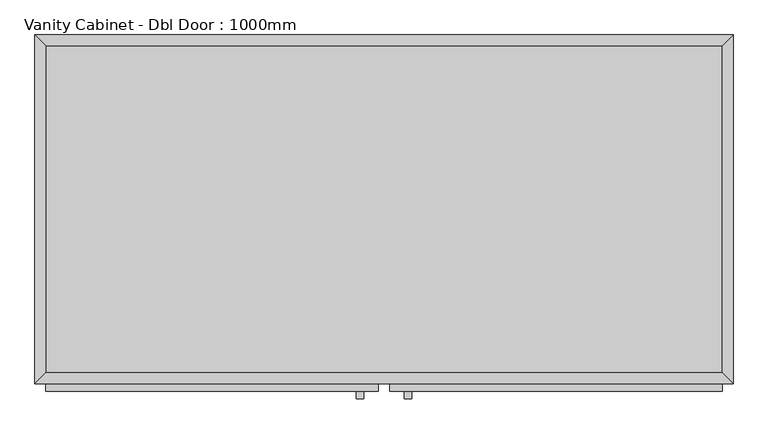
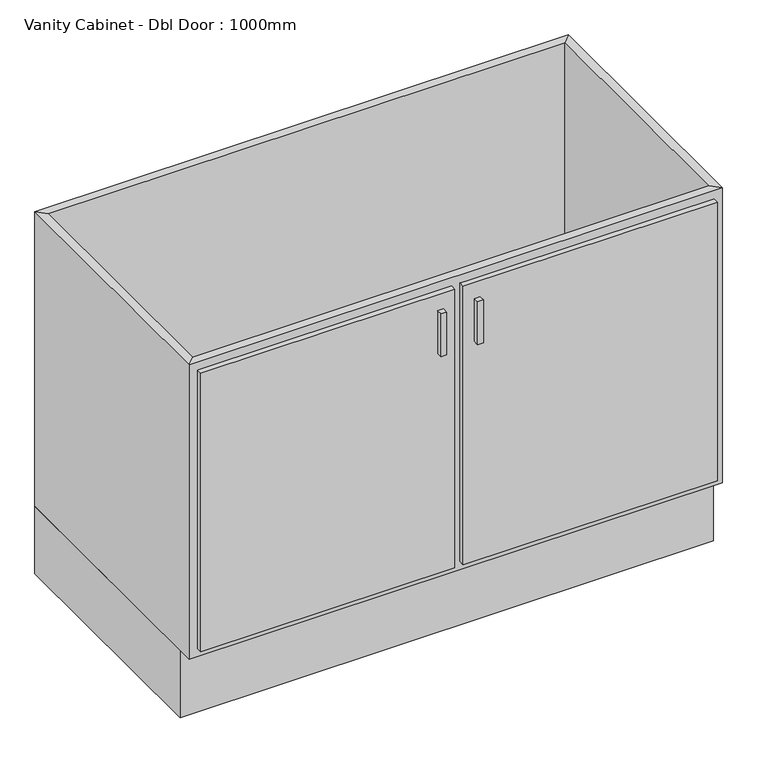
"""IFC4 building model written with IfcOpenShell, lengths in millimetres: furniture geometry, Vanity Cabinet - Dbl Door : 1000mm."""

import ifcopenshell
import ifcopenshell.guid

model = None  # the IFC model being written
_history = None  # IfcOwnerHistory: only IFC2X3 demands one
_inside = {}  # id of a spatial element -> (the spatial element, [elements in it])
_under = {}  # id of a project, library or spatial element -> (it, [spatial elements below it])
_declared = {}  # id of a project -> (the project, [libraries it declares])
_typed = {}  # id of a type object -> (the type object, [elements of that type])
_made_of = {}  # id of a material, layer set ... -> (it, [elements and type objects made of it])


def new_model(schema):
    """Start an empty IFC model of exactly this schema.

    Asked for "IFC4X3", IfcOpenShell would pick the latest addendum, in which some entities
    have other attributes; the version numbers below select the first issue.
    IFC2X3 requires an IfcOwnerHistory on every rooted entity: one is made here for all.
    """
    global model, _history
    if schema == "IFC4X3":
        model = ifcopenshell.file(schema_version=(4, 3, 0, 0))
    else:
        model = ifcopenshell.file(schema=schema)
    _inside.clear()
    _under.clear()
    _declared.clear()
    _typed.clear()
    _made_of.clear()
    _history = None
    if model.schema == "IFC2X3":
        org = make("IfcOrganization", Name="unknown")
        user = make(
            "IfcPersonAndOrganization",
            ThePerson=make("IfcPerson", FamilyName="unknown"),
            TheOrganization=org,
        )
        app = make(
            "IfcApplication",
            ApplicationDeveloper=org,
            Version="unknown",
            ApplicationFullName="unknown",
            ApplicationIdentifier="unknown",
        )
        _history = make(
            "IfcOwnerHistory",
            OwningUser=user,
            OwningApplication=app,
            ChangeAction="ADDED",
            CreationDate=0,
        )
    return model


def make(cls, **values):
    """One entity of the class cls with the attributes given. An attribute that is None is left unset."""
    return model.create_entity(
        cls, **{name: value for name, value in values.items() if value is not None}
    )


def rooted(cls, **values):
    """An entity with a GlobalId (a new one), such as an element, a storey or a relation."""
    return make(cls, GlobalId=ifcopenshell.guid.new(), OwnerHistory=_history, **values)


def si_unit(unit_type, name, prefix=None):
    """IfcSIUnit, for example si_unit("LENGTHUNIT", "METRE", prefix="MILLI")."""
    return make("IfcSIUnit", UnitType=unit_type, Prefix=prefix, Name=name)


def assignment(units):
    """IfcUnitAssignment: the units of a project."""
    return None if units is None else make("IfcUnitAssignment", Units=units)


def point(xyz):
    """IfcCartesianPoint."""
    return None if xyz is None else make("IfcCartesianPoint", Coordinates=xyz)


def direction(xyz):
    """IfcDirection."""
    return None if xyz is None else make("IfcDirection", DirectionRatios=xyz)


def frame(location, z_axis=None, x_axis=None):
    """IfcAxis2Placement3D, a coordinate frame: its origin and axes. An axis left out is left unset."""
    return make(
        "IfcAxis2Placement3D",
        Location=point(location),
        Axis=direction(z_axis),
        RefDirection=direction(x_axis),
    )


def origin():
    """The frame at (0, 0, 0) with its axes left unset."""
    return frame((0.0, 0.0, 0.0))


def origin_with_axes():
    """The frame at (0, 0, 0) with the z axis (0, 0, 1) and the x axis (1, 0, 0) written out."""
    return frame((0.0, 0.0, 0.0), z_axis=(0.0, 0.0, 1.0), x_axis=(1.0, 0.0, 0.0))


def place(relative_to, where):
    """IfcLocalPlacement: puts the frame where relative to a parent placement (None: the world)."""
    return make(
        "IfcLocalPlacement", PlacementRelTo=relative_to, RelativePlacement=where
    )


def context(
    kind, dimensions, precision=None, world=None, true_north=None, identifier=None
):
    """IfcGeometricRepresentationContext, for example the 3D "Model" context."""
    return make(
        "IfcGeometricRepresentationContext",
        ContextIdentifier=identifier,
        ContextType=kind,
        CoordinateSpaceDimension=dimensions,
        Precision=precision,
        WorldCoordinateSystem=world,
        TrueNorth=true_north,
    )


def project(units=None, contexts=None):
    """IfcProject with its units and contexts."""
    return rooted(
        "IfcProject",
        Name="project",
        RepresentationContexts=contexts,
        UnitsInContext=assignment(units),
    )


def spatial(cls, under=None, at=None, **own):
    """A site, building, storey or space (cls), placed at a placement, below another one or the project."""
    s = rooted(cls, ObjectPlacement=at, **own)
    if under is not None:
        _under.setdefault(under.id(), (under, []))[1].append(s)
    return s


def polyline(points):
    """IfcPolyline through the points."""
    return make("IfcPolyline", Points=[point(p) for p in points])


def outline(outer, holes=None, kind="AREA"):
    """IfcArbitraryClosedProfileDef: a profile drawn as a closed curve; with holes, ...WithVoids."""
    if holes is None:
        return make("IfcArbitraryClosedProfileDef", ProfileType=kind, OuterCurve=outer)
    return make(
        "IfcArbitraryProfileDefWithVoids",
        ProfileType=kind,
        OuterCurve=outer,
        InnerCurves=holes,
    )


def extrude(swept, where, along, depth):
    """IfcExtrudedAreaSolid: the profile swept, set in the frame where, extruded along a direction by depth."""
    return make(
        "IfcExtrudedAreaSolid",
        SweptArea=swept,
        Position=where,
        ExtrudedDirection=direction(along),
        Depth=depth,
    )


def faces_of(points, faces, orient=None, outer=None):
    """IfcFace entities. A face is a list of loops; a loop is a list of indices into points, from 0.

    orient and outer hold one flag for each loop. By default every Orientation is true, the
    first loop of a face is its IfcFaceOuterBound and the others are IfcFaceBound.
    """
    made = []
    for i, loops in enumerate(faces):
        bounds = []
        for j, loop in enumerate(loops):
            is_outer = j == 0 if outer is None else outer[i][j]
            bounds.append(
                make(
                    "IfcFaceOuterBound" if is_outer else "IfcFaceBound",
                    Bound=make("IfcPolyLoop", Polygon=[points[k] for k in loop]),
                    Orientation=True if orient is None else orient[i][j],
                )
            )
        made.append(make("IfcFace", Bounds=bounds))
    return made


def faceted_brep(points, faces, orient=None, outer=None, voids=None):
    """IfcFacetedBrep: a solid bounded by flat faces; with voids (closed shells), ...WithVoids."""
    shared = [point(p) for p in points]
    hull = make("IfcClosedShell", CfsFaces=faces_of(shared, faces, orient, outer))
    if voids is None:
        return make("IfcFacetedBrep", Outer=hull)
    return make(
        "IfcFacetedBrepWithVoids",
        Outer=hull,
        Voids=[
            make(cls, CfsFaces=faces_of(shared, fs, o, b)) for cls, fs, o, b in voids
        ],
    )


def shape(context_of_items, identifier, shape_type, items):
    """IfcShapeRepresentation: the items that make up one representation, for example the "Body"."""
    return make(
        "IfcShapeRepresentation",
        ContextOfItems=context_of_items,
        RepresentationIdentifier=identifier,
        RepresentationType=shape_type,
        Items=items,
    )


def source(mapping_origin, context_of_items, identifier, shape_type, items):
    """IfcRepresentationMap: a shape defined once, which mapped items show again and again."""
    return make(
        "IfcRepresentationMap",
        MappingOrigin=mapping_origin,
        MappedRepresentation=shape(context_of_items, identifier, shape_type, items),
    )


def transform(
    local_origin,
    x_axis=None,
    y_axis=None,
    z_axis=None,
    scale=None,
    scale2=None,
    scale3=None,
    uniform=True,
):
    """IfcCartesianTransformationOperator3D, or its non-uniform kind. x_axis, y_axis, z_axis: its Axis1, 2, 3."""
    if uniform:
        return make(
            "IfcCartesianTransformationOperator3D",
            Axis1=direction(x_axis),
            Axis2=direction(y_axis),
            LocalOrigin=point(local_origin),
            Scale=scale,
            Axis3=direction(z_axis),
        )
    return make(
        "IfcCartesianTransformationOperator3DnonUniform",
        Axis1=direction(x_axis),
        Axis2=direction(y_axis),
        LocalOrigin=point(local_origin),
        Scale=scale,
        Axis3=direction(z_axis),
        Scale2=scale2,
        Scale3=scale3,
    )


def mapped(mapping_source, mapping_target):
    """IfcMappedItem: shows the shape of a source again, moved by a transform."""
    return make(
        "IfcMappedItem", MappingSource=mapping_source, MappingTarget=mapping_target
    )


def made_of(thing, what):
    """Note that an element or type object is made of a material, layer set ...; save() writes the relation."""
    if what is not None:
        _made_of.setdefault(what.id(), (what, []))[1].append(thing)
    return thing


def element(
    cls,
    number,
    at=None,
    inside=None,
    cuts=None,
    type_object=None,
    material=None,
    context=None,
    identifier="Body",
    shape_type=None,
    held_by="IfcProductDefinitionShape",
    body=None,
    shapes=None,
    **own,
):
    """One element of the class cls, such as IfcWall. Its Tag is "e" and its number.

    at: its placement. inside: the storey or other place that contains it. cuts: it is an
    opening in that element (IfcRelVoidsElement). A single representation is given by context,
    identifier, shape_type and body (its items); several are given by shapes. held_by: the class
    of the entity that holds the representations. save() writes the other relations.
    """
    e = rooted(cls, Tag="e%d" % number, ObjectPlacement=at, **own)
    if body is not None:
        shapes = [shape(context, identifier, shape_type, body)]
    if shapes is not None:
        e.Representation = make(held_by, Representations=shapes)
    if inside is not None:
        _inside.setdefault(inside.id(), (inside, []))[1].append(e)
    if cuts is not None:
        rooted(
            "IfcRelVoidsElement", RelatingBuildingElement=cuts, RelatedOpeningElement=e
        )
    if type_object is not None:
        _typed.setdefault(type_object.id(), (type_object, []))[1].append(e)
    return made_of(e, material)


def aggregate(whole, parts):
    """IfcRelAggregates: a whole, such as a stair, and the parts it consists of."""
    return rooted("IfcRelAggregates", RelatingObject=whole, RelatedObjects=parts)


def save(model, path):
    """Write the relations noted so far, then the file.

    IfcRelAggregates (storeys below a building ...), IfcRelContainedInSpatialStructure (elements
    in a storey), IfcRelDefinesByType, IfcRelAssociatesMaterial and IfcRelDeclares: one each for
    every whole, place, type object, material and project.
    """
    for whole, parts in _under.values():
        aggregate(whole, parts)
    for where, things in _inside.values():
        rooted(
            "IfcRelContainedInSpatialStructure",
            RelatedElements=things,
            RelatingStructure=where,
        )
    for kind, things in _typed.values():
        rooted("IfcRelDefinesByType", RelatedObjects=things, RelatingType=kind)
    for what, things in _made_of.values():
        rooted("IfcRelAssociatesMaterial", RelatedObjects=things, RelatingMaterial=what)
    for by, libraries in _declared.values():
        rooted("IfcRelDeclares", RelatingContext=by, RelatedDefinitions=libraries)
    model.write(path)


def vanity_cabinet_dbl_door_1000mm_172667e9(model_context):
    return source(origin(), model_context, "Body", "SolidModel", [
        extrude(outline(polyline([(599.6877049, -19.05), (599.6877049, -580.95), (-562.2122951, -580.95), (-562.2122951, -19.05), (599.6877049, -19.05)])), frame((0.0, 0.0, 160.0), z_axis=(0.0, 0.0, 1.0), x_axis=(1.0, 0.0, 0.0)), (0.0, 0.0, 1.0), 19.05),
        faceted_brep([(599.6877049, -580.95, 860.0), (599.6877049, -580.95, 160.0), (-562.2122951, -580.95, 160.0), (-562.2122951, -580.95, 860.0), (618.7377049, -600.0, 860.0), (-581.2622951, -600.0, 860.0), (618.7377049, -600.0, 160.0), (-581.2622951, -600.0, 160.0), (-562.2122951, -19.05, 160.0), (-562.2122951, -19.05, 860.0), (-581.2622951, 0.0, 860.0), (-581.2622951, 0.0, 160.0), (599.6877049, -19.05, 160.0), (599.6877049, -19.05, 860.0), (618.7377049, 0.0, 860.0), (618.7377049, 0.0, 160.0)], [[[0, 1, 2, 3]], [[4, 0, 3, 5]], [[6, 4, 5, 7]], [[1, 6, 7, 2]], [[3, 2, 8, 9]], [[5, 3, 9, 10]], [[7, 5, 10, 11]], [[2, 7, 11, 8]], [[9, 8, 12, 13]], [[10, 9, 13, 14]], [[11, 10, 14, 15]], [[8, 11, 15, 12]], [[13, 12, 1, 0]], [[14, 13, 0, 4]], [[15, 14, 4, 6]], [[12, 15, 6, 1]]]),
        extrude(outline(polyline([(618.7377049, 0.0), (618.7377049, -565.0), (-581.2622951, -565.0), (-581.2622951, 0.0), (618.7377049, 0.0)])), origin_with_axes(), (0.0, 0.0, 1.0), 160.0),
        extrude(outline(polyline([(-16.1872951, -625.4), (-28.8872951, -625.4), (-28.8872951, -612.7), (-16.1872951, -612.7), (-16.1872951, -625.4)])), frame((0.0, 0.0, 701.25), z_axis=(0.0, 0.0, 1.0), x_axis=(1.0, 0.0, 0.0)), (0.0, 0.0, 1.0), 101.6),
        extrude(outline(polyline([(66.3627049, -625.4), (53.6627049, -625.4), (53.6627049, -612.7), (66.3627049, -612.7), (66.3627049, -625.4)])), frame((0.0, 0.0, 701.25), z_axis=(0.0, 0.0, 1.0), x_axis=(1.0, 0.0, 0.0)), (0.0, 0.0, 1.0), 101.6),
        extrude(outline(polyline([(9.2127049, -612.7), (-562.2122951, -612.7), (-562.2122951, -600.0), (9.2127049, -600.0), (9.2127049, -612.7)])), frame((0.0, 0.0, 179.05), z_axis=(0.0, 0.0, 1.0), x_axis=(1.0, 0.0, 0.0)), (0.0, 0.0, 1.0), 661.9),
        extrude(outline(polyline([(599.6877049, -612.7), (28.2627049, -612.7), (28.2627049, -600.0), (599.6877049, -600.0), (599.6877049, -612.7)])), frame((0.0, 0.0, 179.05), z_axis=(0.0, 0.0, 1.0), x_axis=(1.0, 0.0, 0.0)), (0.0, 0.0, 1.0), 661.9),
    ])


if __name__ == "__main__":
    model = new_model("IFC4")
    model_context = context("Model", 3, world=origin())
    ifc_project = project(units=[si_unit("LENGTHUNIT", "METRE", prefix="MILLI")], contexts=[model_context])
    site = spatial("IfcSite", under=ifc_project)
    building = spatial("IfcBuilding", under=site)
    placement = place(None, origin())
    vanity_cabinet_dbl_door_1000mm_shape = vanity_cabinet_dbl_door_1000mm_172667e9(model_context)
    element("IfcFurniture", 1, ObjectType="Vanity Cabinet - Dbl Door : 1000mm", at=placement, inside=building, context=model_context, shape_type="MappedRepresentation", body=[
        mapped(vanity_cabinet_dbl_door_1000mm_shape, transform((0.0, 0.0, 0.0), x_axis=(1.0, 0.0, 0.0), y_axis=(0.0, 1.0, 0.0), z_axis=(0.0, 0.0, 1.0))),
    ])
    save(model, "model.ifc")
